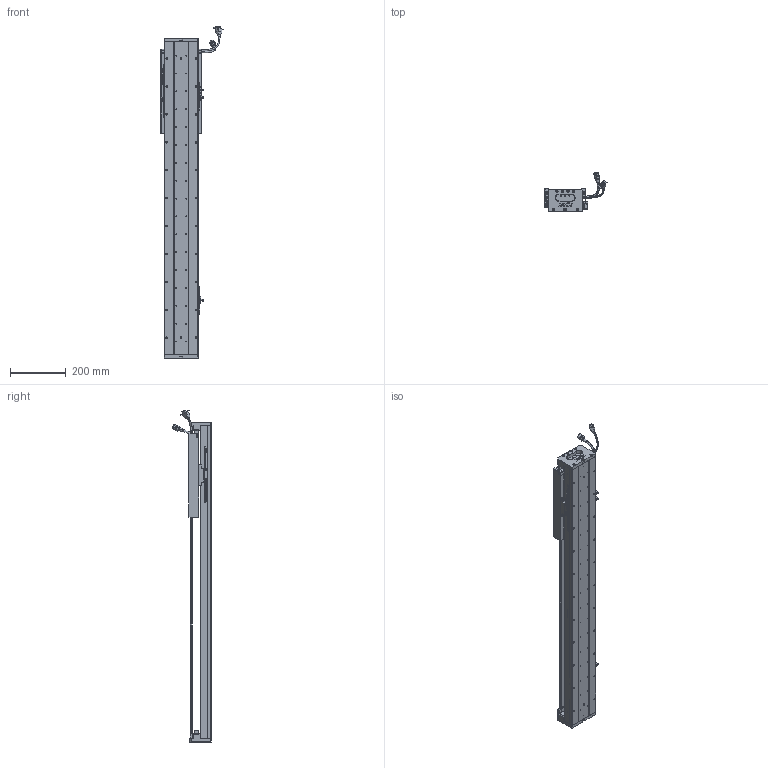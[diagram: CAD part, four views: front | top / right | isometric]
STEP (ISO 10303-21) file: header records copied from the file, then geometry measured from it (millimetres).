
FILE_DESCRIPTION (( 'STEP AP203' ), '1' );
FILE_NAME ('Z4-RY120D-1-L500-B-K.SLDASM_0750.step', '2021-05-17T06:06:31', ( '盈信电脑' ), ( '东莞市道滘镇水果街19号' ), 'SwSTEP 2.0', 'SolidWorks 2016', '' );
FILE_SCHEMA (( 'CONFIG_CONTROL_DESIGN' ));
Length unit declared in the file: millimetre
Products named in the file (37): Z4-RY120-500-倰第菁釱_0750; SEAL-Part-1; 覜茼ん672; SHIELDPLATE; 672嫖萇羲壽假蚾釱; SCALE; PBU_SHEET; HARNESS-Part-1; SCREW-M1.6; COVER-Part-1; Z-RY120D詩湍狟揤裔; HARNESS-Part-2; SCREW-M1.7; 140蚥薯蝶輸; LABEL; COVER; Z4-RY120-L500詩湍100mm遵_0750; Z4-RY120D-1-L500-B-K.SLDASM_0750; 榋妏寠巭燃_暯_M2_2; SCREW-M1.7-1; SCREW-M1.6-1; Z-RY120D詩湍奻揤裔; SCALE-Part-2; PSLH080_PSLF2; 140雄赽晤鎢ん堤盄; SEAL; LABEL-Part-1; Z-120詩湍傷裔啣; SCALE-Part-1; SCREW-M1.6-3; 120-Z-臏賑輸盄裔(21遴); 080黍杅芛假蚾釱21遴; Z4-RY120铝滑块（21款）; SCREW-M1.6-2; HOLDER0; HARNESS; RY100FB-遵嫖萇覜茼え
Assembly tree (43 placements, depth 4):
  Z4-RY120D-1-L500-B-K.SLDASM_0750
    Z4-RY120-500-倰第菁釱_0750
    覜茼ん672  x3
    672嫖萇羲壽假蚾釱  x2
    Z4-RY120铝滑块（21款）
    PSLH080_PSLF2
      SCALE
        SCALE-Part-1
        SCALE-Part-2
      HARNESS
        HARNESS-Part-1
        HARNESS-Part-2
      LABEL
        LABEL-Part-1
      COVER
        COVER-Part-1
      SEAL
        SEAL-Part-1
      榋妏寠巭燃_暯_M2_2
      SHIELDPLATE
      SCREW-M1.7
      SCREW-M1.7-1
      PBU_SHEET
      SCREW-M1.6
      SCREW-M1.6-1
      SCREW-M1.6-2
      SCREW-M1.6-3
      HOLDER0
    080黍杅芛假蚾釱21遴
    120-Z-臏賑輸盄裔(21遴)
    140雄赽晤鎢ん堤盄
    140蚥薯蝶輸  x2
    RY100FB-遵嫖萇覜茼え
    Z-120詩湍傷裔啣  x2
    Z-RY120D詩湍奻揤裔  x2
    Z-RY120D詩湍狟揤裔  x2
    Z4-RY120-L500詩湍100mm遵_0750
Bounding box: 222.87 x 140.94 x 1189 mm (x, y, z)
Volume: 3465616.4 mm3; surface area: 1127936.2 mm2
Topology: 38 solids, 38 shells, 2869 faces, 7780 edges, 4912 vertices
Faces by surface type: cylinder 1332, plane 1129, cone 286, torus 69, bspline 53
Entity records: 86933 total; most frequent: CARTESIAN_POINT 23430, ORIENTED_EDGE 12512, DIRECTION 12250, EDGE_CURVE 6256, AXIS2_PLACEMENT_3D 4490, VERTEX_POINT 4032, VECTOR 3270, LINE 3270
